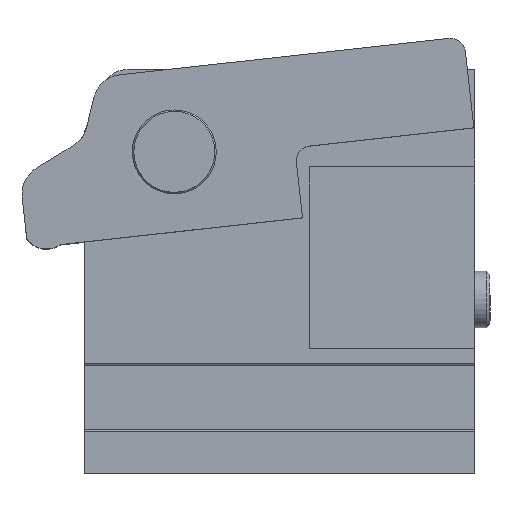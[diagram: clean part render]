
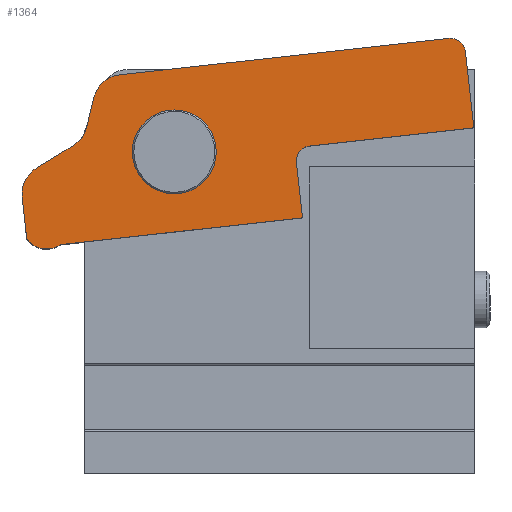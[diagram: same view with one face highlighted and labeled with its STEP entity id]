
A CAD part, top view. The second image highlights one B-rep face of the part: STEP entity #1364.
In plain terms, the highlighted planar face has unit normal (0, 0, 1).
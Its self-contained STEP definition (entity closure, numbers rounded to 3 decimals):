
#18=FACE_BOUND('',#168,.T.);
#32=PLANE('',#1484);
#93=FACE_OUTER_BOUND('',#167,.T.);
#167=EDGE_LOOP('',(#971,#972,#973,#974,#975,#976,#977,#978,#979,#980,#981,
#982,#983,#984));
#168=EDGE_LOOP('',(#985));
#233=LINE('',#2037,#368);
#246=LINE('',#2068,#381);
#255=LINE('',#2095,#390);
#257=LINE('',#2101,#392);
#258=LINE('',#2103,#393);
#259=LINE('',#2107,#394);
#260=LINE('',#2111,#395);
#261=LINE('',#2113,#396);
#368=VECTOR('',#1654,10.);
#381=VECTOR('',#1679,10.);
#390=VECTOR('',#1700,10.);
#392=VECTOR('',#1708,10.);
#393=VECTOR('',#1709,10.);
#394=VECTOR('',#1712,10.);
#395=VECTOR('',#1715,10.);
#396=VECTOR('',#1716,10.);
#494=CIRCLE('',#1440,13.975);
#518=CIRCLE('',#1482,10.);
#519=CIRCLE('',#1485,5.);
#520=CIRCLE('',#1486,10.);
#521=CIRCLE('',#1487,10.);
#522=CIRCLE('',#1488,8.);
#523=CIRCLE('',#1489,5.);
#551=VERTEX_POINT('',#1965);
#576=VERTEX_POINT('',#2034);
#577=VERTEX_POINT('',#2036);
#588=VERTEX_POINT('',#2065);
#589=VERTEX_POINT('',#2067);
#598=VERTEX_POINT('',#2086);
#599=VERTEX_POINT('',#2088);
#601=VERTEX_POINT('',#2094);
#602=VERTEX_POINT('',#2099);
#603=VERTEX_POINT('',#2102);
#604=VERTEX_POINT('',#2104);
#605=VERTEX_POINT('',#2106);
#606=VERTEX_POINT('',#2108);
#607=VERTEX_POINT('',#2110);
#608=VERTEX_POINT('',#2112);
#684=EDGE_CURVE('',#551,#551,#494,.T.);
#715=EDGE_CURVE('',#576,#577,#233,.T.);
#730=EDGE_CURVE('',#588,#589,#246,.T.);
#740=EDGE_CURVE('',#598,#599,#518,.T.);
#743=EDGE_CURVE('',#577,#601,#255,.T.);
#745=EDGE_CURVE('',#589,#576,#519,.T.);
#746=EDGE_CURVE('',#602,#588,#520,.T.);
#747=EDGE_CURVE('',#599,#602,#257,.T.);
#748=EDGE_CURVE('',#603,#598,#258,.T.);
#749=EDGE_CURVE('',#604,#603,#521,.T.);
#750=EDGE_CURVE('',#605,#604,#259,.T.);
#751=EDGE_CURVE('',#606,#605,#522,.T.);
#752=EDGE_CURVE('',#607,#606,#260,.T.);
#753=EDGE_CURVE('',#608,#607,#261,.T.);
#754=EDGE_CURVE('',#601,#608,#523,.T.);
#971=ORIENTED_EDGE('',*,*,#715,.F.);
#972=ORIENTED_EDGE('',*,*,#745,.F.);
#973=ORIENTED_EDGE('',*,*,#730,.F.);
#974=ORIENTED_EDGE('',*,*,#746,.F.);
#975=ORIENTED_EDGE('',*,*,#747,.F.);
#976=ORIENTED_EDGE('',*,*,#740,.F.);
#977=ORIENTED_EDGE('',*,*,#748,.F.);
#978=ORIENTED_EDGE('',*,*,#749,.F.);
#979=ORIENTED_EDGE('',*,*,#750,.F.);
#980=ORIENTED_EDGE('',*,*,#751,.F.);
#981=ORIENTED_EDGE('',*,*,#752,.F.);
#982=ORIENTED_EDGE('',*,*,#753,.F.);
#983=ORIENTED_EDGE('',*,*,#754,.F.);
#984=ORIENTED_EDGE('',*,*,#743,.F.);
#985=ORIENTED_EDGE('',*,*,#684,.T.);
#1364=ADVANCED_FACE('',(#93,#18),#32,.T.);
#1440=AXIS2_PLACEMENT_3D('',#1967,#1578,#1579);
#1482=AXIS2_PLACEMENT_3D('',#2089,#1694,#1695);
#1484=AXIS2_PLACEMENT_3D('',#2097,#1702,#1703);
#1485=AXIS2_PLACEMENT_3D('',#2098,#1704,#1705);
#1486=AXIS2_PLACEMENT_3D('',#2100,#1706,#1707);
#1487=AXIS2_PLACEMENT_3D('',#2105,#1710,#1711);
#1488=AXIS2_PLACEMENT_3D('',#2109,#1713,#1714);
#1489=AXIS2_PLACEMENT_3D('',#2114,#1717,#1718);
#1578=DIRECTION('center_axis',(0.,0.,
-1.));
#1579=DIRECTION('ref_axis',(0.869,-0.495,0.));
#1654=DIRECTION('',(0.11,-0.994,0.));
#1679=DIRECTION('',(0.994,0.11,0.));
#1694=DIRECTION('center_axis',(0.,0.,
1.));
#1695=DIRECTION('ref_axis',(0.807,-0.59,0.));
#1700=DIRECTION('',(-0.994,-0.11,0.));
#1702=DIRECTION('center_axis',(0.,0.,
1.));
#1703=DIRECTION('ref_axis',(0.11,-0.994,0.));
#1704=DIRECTION('center_axis',(0.,0.,
-1.));
#1705=DIRECTION('ref_axis',(0.625,0.781,0.));
#1706=DIRECTION('center_axis',(0.,0.,
-1.));
#1707=DIRECTION('ref_axis',(-0.66,0.751,0.));
#1708=DIRECTION('',(0.237,0.972,0.));
#1709=DIRECTION('',(0.854,0.52,0.));
#1710=DIRECTION('center_axis',(0.,0.,
-1.));
#1711=DIRECTION('ref_axis',(-0.897,0.441,0.));
#1712=DIRECTION('',(-0.11,0.994,0.));
#1713=DIRECTION('center_axis',(0.,0.,
-1.));
#1714=DIRECTION('ref_axis',(-0.816,-0.577,0.));
#1715=DIRECTION('',(-0.994,-0.11,0.));
#1716=DIRECTION('',(0.11,-0.994,0.));
#1717=DIRECTION('center_axis',(0.,0.,
1.));
#1718=DIRECTION('ref_axis',(-0.11,0.994,0.));
#1965=CARTESIAN_POINT('',(-47.145,46.664,40.));
#1967=CARTESIAN_POINT('Origin',(-35.,39.75,40.));
#2034=CARTESIAN_POINT('',(61.921,73.106,40.));
#2036=CARTESIAN_POINT('',(64.724,47.761,40.));
#2037=CARTESIAN_POINT('',(64.394,50.743,40.));
#2065=CARTESIAN_POINT('',(-53.149,65.41,40.));
#2067=CARTESIAN_POINT('',(56.401,77.526,40.));
#2068=CARTESIAN_POINT('',(23.601,73.899,40.));
#2086=CARTESIAN_POINT('',(-68.685,41.809,40.));
#2088=CARTESIAN_POINT('',(-64.165,47.986,40.));
#2089=CARTESIAN_POINT('Origin',(-73.881,50.353,40.));
#2094=CARTESIAN_POINT('',(10.057,41.715,40.));
#2095=CARTESIAN_POINT('',(64.724,47.761,40.));
#2097=CARTESIAN_POINT('Origin',(64.394,50.743,40.));
#2098=CARTESIAN_POINT('Origin',(56.951,72.557,40.));
#2099=CARTESIAN_POINT('',(-61.766,57.838,40.));
#2100=CARTESIAN_POINT('Origin',(-52.05,55.471,40.));
#2101=CARTESIAN_POINT('',(-58.22,72.394,40.));
#2102=CARTESIAN_POINT('',(-80.913,34.371,40.));
#2103=CARTESIAN_POINT('',(-16.363,73.635,40.));
#2104=CARTESIAN_POINT('',(-85.656,24.728,40.));
#2105=CARTESIAN_POINT('Origin',(-75.716,25.827,40.));
#2106=CARTESIAN_POINT('',(-84.116,10.802,40.));
#2107=CARTESIAN_POINT('',(-86.685,34.034,40.));
#2108=CARTESIAN_POINT('',(-72.965,8.89,40.));
#2109=CARTESIAN_POINT('Origin',(-77.584,15.421,40.));
#2110=CARTESIAN_POINT('',(7.671,17.808,40.));
#2111=CARTESIAN_POINT('',(-2.829,16.646,40.));
#2112=CARTESIAN_POINT('',(5.637,36.196,40.));
#2113=CARTESIAN_POINT('',(5.197,40.171,40.));
#2114=CARTESIAN_POINT('Origin',(10.607,36.745,40.));
